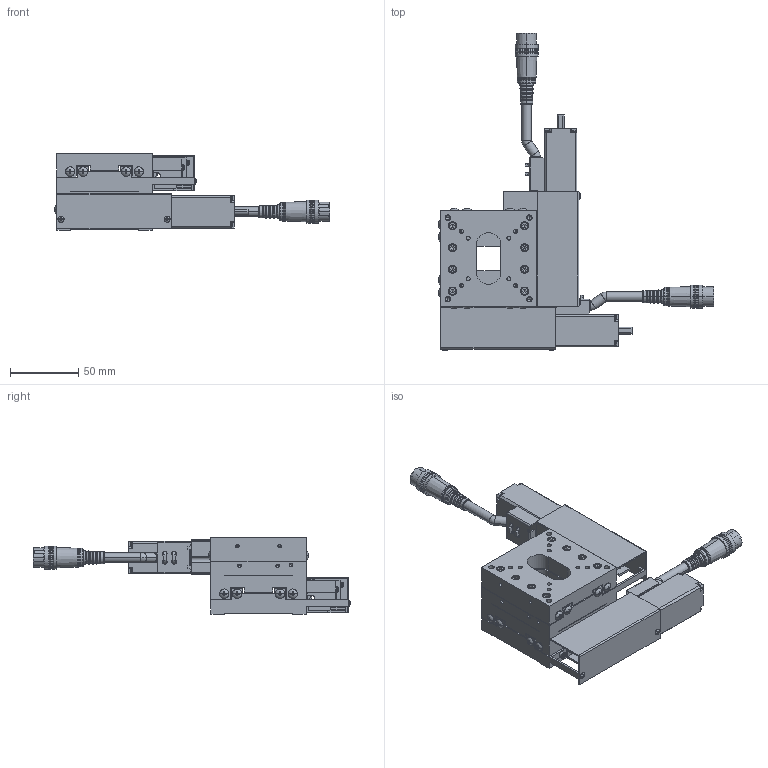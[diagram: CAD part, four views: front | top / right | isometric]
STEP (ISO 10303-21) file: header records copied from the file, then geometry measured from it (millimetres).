
FILE_DESCRIPTION (( 'STEP AP203' ), '1' );
FILE_NAME ('YA07A-R2H01-RRR.STEP', '2019-06-10T02:56:27', ( '' ), ( '' ), 'SwSTEP 2.0', 'SolidWorks 2018', '' );
FILE_SCHEMA (( 'CONFIG_CONTROL_DESIGN' ));
Length unit declared in the file: millimetre
Products named in the file (12): base; second table-Part-1; YA07A-R2H01-RRR; base-Part-1; second table-Part-3; base-Part-2; base-Part-4; table; second table; second table-Part-2; base-Part-3; second table-Part-4
Assembly tree (11 placements, depth 3):
  YA07A-R2H01-RRR
    second table
      second table-Part-1
      second table-Part-2
      second table-Part-3
      second table-Part-4
    base
      base-Part-1
      base-Part-2
      base-Part-3
      base-Part-4
    table
Bounding box: 202.39 x 233.18 x 56 mm (x, y, z)
Volume: 352252.1 mm3; surface area: 132940.3 mm2
Topology: 9 solids, 17 shells, 3208 faces, 7944 edges, 4848 vertices
Faces by surface type: plane 1970, cylinder 642, cone 448, sphere 76, torus 72
Entity records: 94896 total; most frequent: DIRECTION 16934, CARTESIAN_POINT 16272, ORIENTED_EDGE 15584, EDGE_CURVE 7792, AXIS2_PLACEMENT_3D 6026, VECTOR 4882, LINE 4882, VERTEX_POINT 4836
